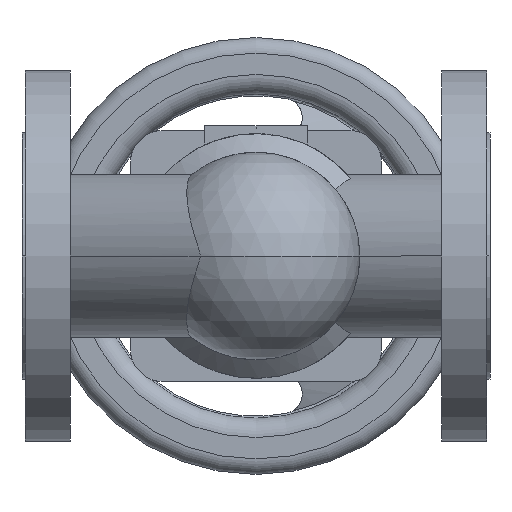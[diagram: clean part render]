
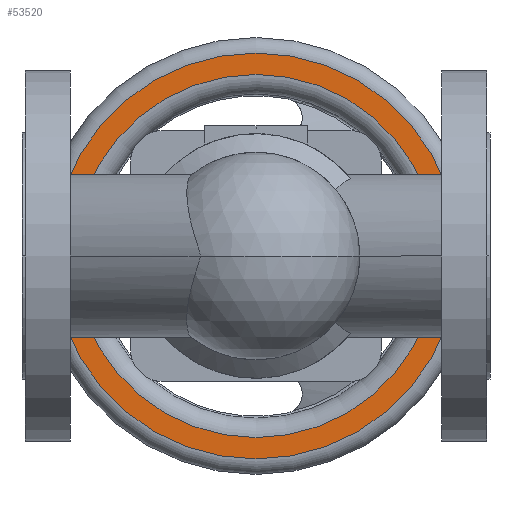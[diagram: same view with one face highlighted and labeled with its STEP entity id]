
A CAD part, front view. The second image highlights one B-rep face of the part: STEP entity #53520.
In plain terms, the highlighted planar face has unit normal (0, -1, 0).
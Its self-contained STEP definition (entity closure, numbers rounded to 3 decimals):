
#52910=CARTESIAN_POINT('',(225.,329.6,0.));
#52920=VERTEX_POINT('',#52910);
#53020=CARTESIAN_POINT('',(16.,329.6,0.));
#53030=VERTEX_POINT('',#53020);
#53060=CARTESIAN_POINT('',(120.5,329.6,0.));
#53070=DIRECTION('',(0.,1.,0.));
#53080=DIRECTION('',(-1.,0.,0.));
#53090=AXIS2_PLACEMENT_3D('',#53060,#53070,#53080);
#53100=CIRCLE('',#53090,104.5);
#53110=EDGE_CURVE('',#52920,#53030,#53100,.T.);
#53230=CARTESIAN_POINT('',(21.5,329.6,0.));
#53240=DIRECTION('',(0.,-1.,0.));
#53250=DIRECTION('',(1.,0.,0.));
#53260=AXIS2_PLACEMENT_3D('',#53230,#53240,#53250);
#53270=PLANE('',#53260);
#53280=EDGE_CURVE('',#53030,#52920,#53100,.T.);
#53290=ORIENTED_EDGE('',*,*,#53280,.F.);
#53300=ORIENTED_EDGE('',*,*,#53110,.F.);
#53310=EDGE_LOOP('',(#53300,#53290));
#53320=FACE_OUTER_BOUND('',#53310,.T.);
#53330=CARTESIAN_POINT('',(120.5,329.6,0.));
#53340=DIRECTION('',(0.,1.,0.));
#53350=DIRECTION('',(-1.,0.,0.));
#53360=AXIS2_PLACEMENT_3D('',#53330,#53340,#53350);
#53370=CIRCLE('',#53360,93.5);
#53380=CARTESIAN_POINT('',(27.,329.6,0.));
#53390=VERTEX_POINT('',#53380);
#53400=CARTESIAN_POINT('',(214.,329.6,0.));
#53410=VERTEX_POINT('',#53400);
#53420=EDGE_CURVE('',#53390,#53410,#53370,.T.);
#53430=ORIENTED_EDGE('',*,*,#53420,.T.);
#53440=CARTESIAN_POINT('',(120.5,329.6,-93.5));
#53450=VERTEX_POINT('',#53440);
#53460=EDGE_CURVE('',#53450,#53390,#53370,.T.);
#53470=ORIENTED_EDGE('',*,*,#53460,.T.);
#53480=EDGE_CURVE('',#53410,#53450,#53370,.T.);
#53490=ORIENTED_EDGE('',*,*,#53480,.T.);
#53500=EDGE_LOOP('',(#53490,#53470,#53430));
#53510=FACE_BOUND('',#53500,.T.);
#53520=ADVANCED_FACE('',(#53320,#53510),#53270,.T.);
